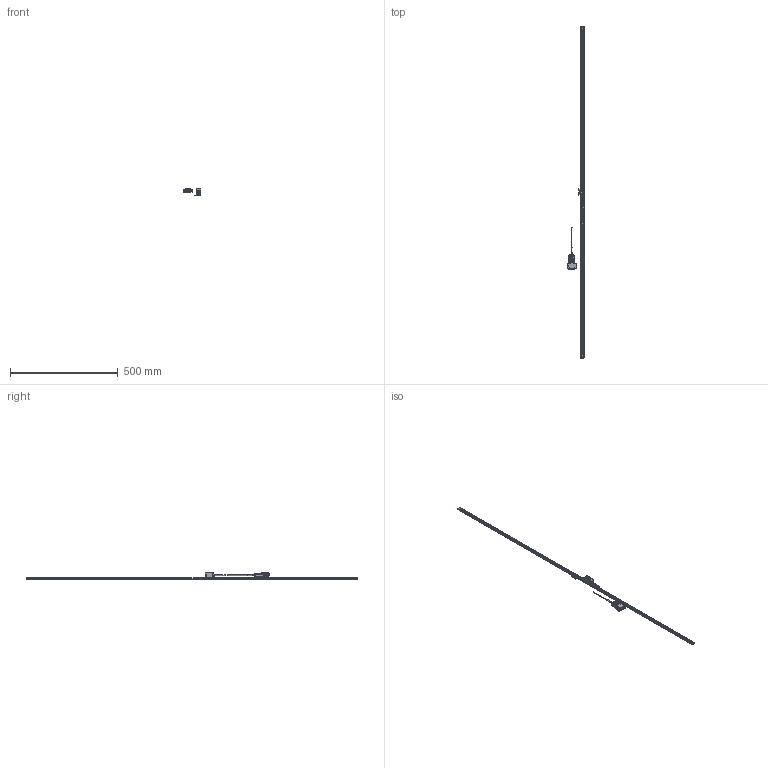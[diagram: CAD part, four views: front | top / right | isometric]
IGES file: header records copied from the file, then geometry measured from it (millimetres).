
Start section: Elysium IGES Interface
Global section: file name: 92HK:\20_商品設計\設計１課\個人\山室\05_作業中雑務\20220810_ST1300 3D HP掲載\ST1300-1500F_G.igs; native system: Creo Elements/Direct Modeling 18.1I  13-Aug-2016; preprocessor: Creo Element/Direct IGES_3D V2.2; author: Unknown; organization: Unknown; date: 20220816.105050; units: millimetre
Bounding box: 83 x 1540 x 30.1 mm (x, y, z)
Volume: 146814.5 mm3; surface area: 88609.4 mm2
Topology: 3 solids, 6 shells, 3582 faces, 9834 edges, 6406 vertices
Faces by surface type: bspline 3582
